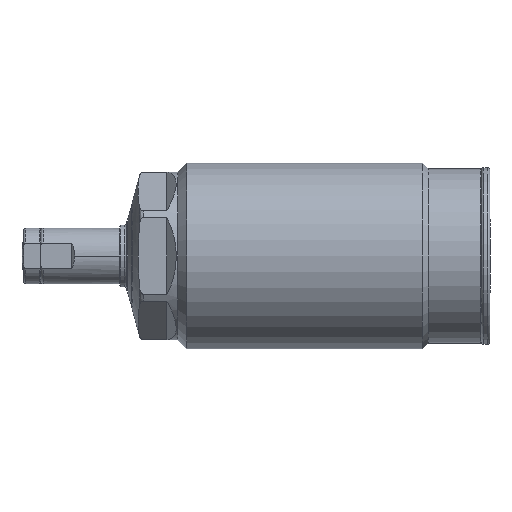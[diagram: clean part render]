
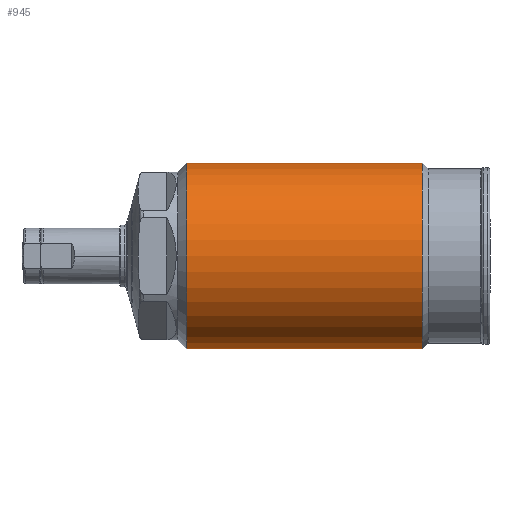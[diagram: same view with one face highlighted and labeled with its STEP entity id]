
A CAD part, left-side view. The second image highlights one B-rep face of the part: STEP entity #945.
In plain terms, the highlighted cylindrical face has radius 15 mm (diameter 30 mm), a partial arc.
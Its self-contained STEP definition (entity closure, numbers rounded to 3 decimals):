
#945=ADVANCED_FACE('',(#1119),#1025,.T.);
#1025=CYLINDRICAL_SURFACE('',#3043,15.);
#1119=FACE_OUTER_BOUND('',#1259,.T.);
#1259=EDGE_LOOP('',(#1889,#1890,#1891,#1892));
#1389=LINE('',#4594,#1475);
#1390=LINE('',#4595,#1476);
#1475=VECTOR('',#3634,1.);
#1476=VECTOR('',#3635,1.);
#1889=ORIENTED_EDGE('',*,*,#2529,.F.);
#1890=ORIENTED_EDGE('',*,*,#2555,.T.);
#1891=ORIENTED_EDGE('',*,*,#2530,.T.);
#1892=ORIENTED_EDGE('',*,*,#2556,.F.);
#2272=VERTEX_POINT('',#4586);
#2273=VERTEX_POINT('',#4588);
#2274=VERTEX_POINT('',#4592);
#2275=VERTEX_POINT('',#4593);
#2529=EDGE_CURVE('',#2275,#2273,#1389,.T.);
#2530=EDGE_CURVE('',#2274,#2272,#1390,.T.);
#2555=EDGE_CURVE('',#2275,#2274,#2764,.T.);
#2556=EDGE_CURVE('',#2273,#2272,#2765,.T.);
#2764=CIRCLE('',#3040,15.);
#2765=CIRCLE('',#3042,15.);
#3040=AXIS2_PLACEMENT_3D('',#4791,#3680,#3681);
#3042=AXIS2_PLACEMENT_3D('',#4793,#3684,#3685);
#3043=AXIS2_PLACEMENT_3D('',#4794,#3686,#3687);
#3634=DIRECTION('',(0.,1.,0.));
#3635=DIRECTION('',(0.,1.,0.));
#3680=DIRECTION('',(0.,1.,0.));
#3681=DIRECTION('',(0.,0.,1.));
#3684=DIRECTION('',(0.,1.,0.));
#3685=DIRECTION('',(0.,0.,1.));
#3686=DIRECTION('',(0.,1.,0.));
#3687=DIRECTION('',(0.,0.,-1.));
#4586=CARTESIAN_POINT('',(0.,48.9,15.));
#4588=CARTESIAN_POINT('',(0.,48.9,-15.));
#4592=CARTESIAN_POINT('',(0.,10.9,15.));
#4593=CARTESIAN_POINT('',(0.,10.9,-15.));
#4594=CARTESIAN_POINT('',(0.,59.7,-15.));
#4595=CARTESIAN_POINT('',(0.,59.7,15.));
#4791=CARTESIAN_POINT('',(0.,10.9,0.));
#4793=CARTESIAN_POINT('',(0.,48.9,0.));
#4794=CARTESIAN_POINT('',(0.,59.7,0.));
